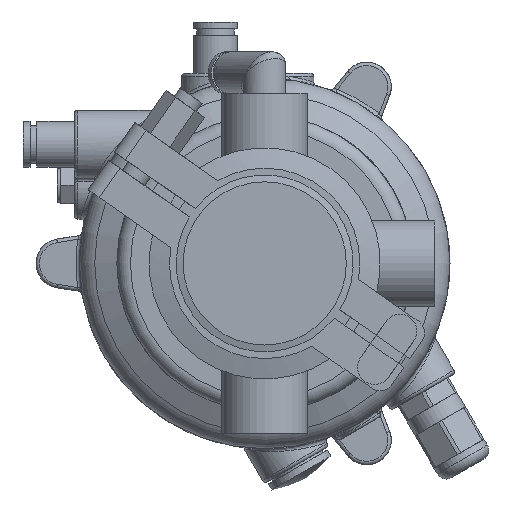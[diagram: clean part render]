
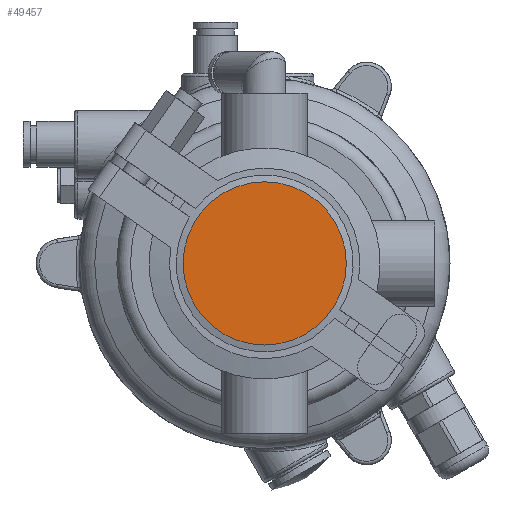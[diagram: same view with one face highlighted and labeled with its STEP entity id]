
A CAD part, front view. The second image highlights one B-rep face of the part: STEP entity #49457.
In plain terms, the highlighted planar face has unit normal (0, -1, 0).
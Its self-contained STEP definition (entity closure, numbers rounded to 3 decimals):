
#6836 = AXIS2_PLACEMENT_3D ( 'NONE', #48770, #57913, #58204 ) ;
#7831 = VERTEX_POINT ( 'NONE', #31022 ) ;
#9085 = EDGE_LOOP ( 'NONE', ( #38215 ) ) ;
#20098 = FACE_OUTER_BOUND ( 'NONE', #9085, .T. ) ;
#22357 = EDGE_CURVE ( 'NONE', #7831, #7831, #23348, .T. ) ;
#23348 = CIRCLE ( 'NONE', #52587, 24. ) ;
#27054 = CARTESIAN_POINT ( 'NONE',  ( 0., 0., 0. ) ) ;
#27647 = DIRECTION ( 'NONE',  ( 0., 0., 1. ) ) ;
#31022 = CARTESIAN_POINT ( 'NONE',  ( 0., 0., 24. ) ) ;
#38215 = ORIENTED_EDGE ( 'NONE', *, *, #22357, .F. ) ;
#39007 = PLANE ( 'NONE',  #6836 ) ;
#41393 = DIRECTION ( 'NONE',  ( 0., 1., 0. ) ) ;
#48770 = CARTESIAN_POINT ( 'NONE',  ( -24., 0., 0. ) ) ;
#49457 = ADVANCED_FACE ( 'NONE', ( #20098 ), #39007, .T. ) ;
#52587 = AXIS2_PLACEMENT_3D ( 'NONE', #27054, #41393, #27647 ) ;
#57913 = DIRECTION ( 'NONE',  ( 0., -1., 0. ) ) ;
#58204 = DIRECTION ( 'NONE',  ( 0., 0., -1. ) ) ;
